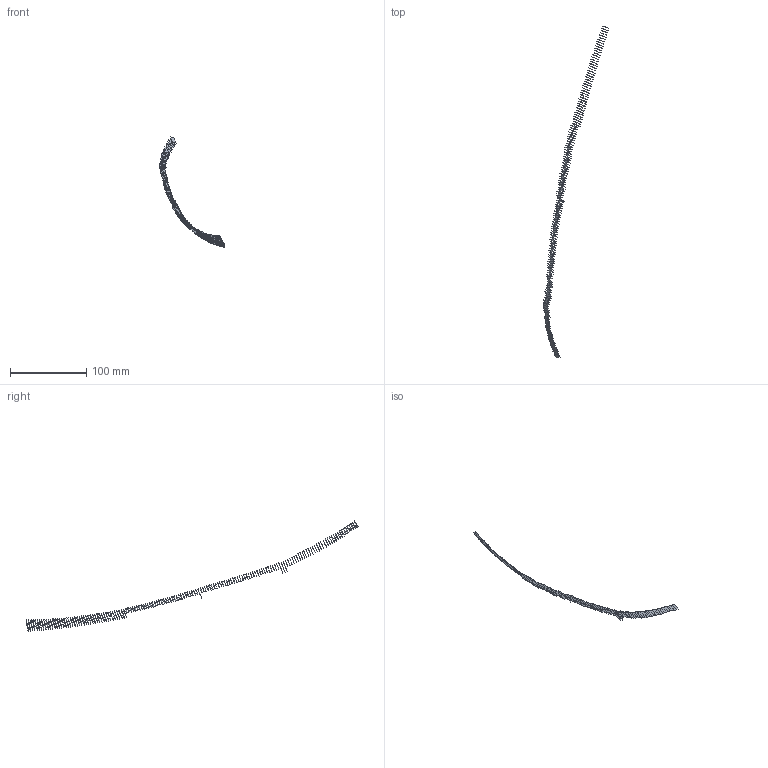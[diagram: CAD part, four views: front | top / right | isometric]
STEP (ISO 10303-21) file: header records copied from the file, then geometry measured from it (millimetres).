
FILE_DESCRIPTION(('FreeCAD Model'),'2;1');
FILE_NAME('Open CASCADE Shape Model','2022-05-22T07:50:26',('FreeCAD'),( 'FreeCAD'),'Open CASCADE STEP processor 7.5','FreeCAD','Unknown');
FILE_SCHEMA(('AUTOMOTIVE_DESIGN { 1 0 10303 214 1 1 1 1 }'));
Length unit declared in the file: millimetre
Products named in the file (154): Open CASCADE STEP translator 7.5 43; Open CASCADE STEP translator 7.5 43.1; Open CASCADE STEP translator 7.5 43.2; Open CASCADE STEP translator 7.5 43.3; Open CASCADE STEP translator 7.5 43.4; Open CASCADE STEP translator 7.5 43.5; Open CASCADE STEP translator 7.5 43.6; Open CASCADE STEP translator 7.5 43.7; Open CASCADE STEP translator 7.5 43.8; Open CASCADE STEP translator 7.5 43.9; Open CASCADE STEP translator 7.5 43.10; Open CASCADE STEP translator 7.5 43.11; Open CASCADE STEP translator 7.5 43.12; Open CASCADE STEP translator 7.5 43.13; Open CASCADE STEP translator 7.5 43.14; Open CASCADE STEP translator 7.5 43.15; Open CASCADE STEP translator 7.5 43.16; Open CASCADE STEP translator 7.5 43.17; Open CASCADE STEP translator 7.5 43.18; Open CASCADE STEP translator 7.5 43.19; Open CASCADE STEP translator 7.5 43.20; Open CASCADE STEP translator 7.5 43.21; Open CASCADE STEP translator 7.5 43.22; Open CASCADE STEP translator 7.5 43.23; Open CASCADE STEP translator 7.5 43.24; Open CASCADE STEP translator 7.5 43.25; Open CASCADE STEP translator 7.5 43.26; Open CASCADE STEP translator 7.5 43.27; Open CASCADE STEP translator 7.5 43.28; Open CASCADE STEP translator 7.5 43.29; Open CASCADE STEP translator 7.5 43.30; Open CASCADE STEP translator 7.5 43.31; Open CASCADE STEP translator 7.5 43.32; Open CASCADE STEP translator 7.5 43.33; Open CASCADE STEP translator 7.5 43.34; Open CASCADE STEP translator 7.5 43.35; Open CASCADE STEP translator 7.5 43.36; Open CASCADE STEP translator 7.5 43.37; Open CASCADE STEP translator 7.5 43.38; Open CASCADE STEP translator 7.5 43.39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
Assembly tree (153 placements, depth 2):
  Open CASCADE STEP translator 7.5 43
    Open CASCADE STEP translator 7.5 43.1
    Open CASCADE STEP translator 7.5 43.2
    Open CASCADE STEP translator 7.5 43.3
    Open CASCADE STEP translator 7.5 43.4
    Open CASCADE STEP translator 7.5 43.5
    Open CASCADE STEP translator 7.5 43.6
    Open CASCADE STEP translator 7.5 43.7
    Open CASCADE STEP translator 7.5 43.8
    Open CASCADE STEP translator 7.5 43.9
    Open CASCADE STEP translator 7.5 43.10
    Open CASCADE STEP translator 7.5 43.11
    Open CASCADE STEP translator 7.5 43.12
    Open CASCADE STEP translator 7.5 43.13
    Open CASCADE STEP translator 7.5 43.14
    Open CASCADE STEP translator 7.5 43.15
    Open CASCADE STEP translator 7.5 43.16
    Open CASCADE STEP translator 7.5 43.17
    Open CASCADE STEP translator 7.5 43.18
    Open CASCADE STEP translator 7.5 43.19
    Open CASCADE STEP translator 7.5 43.20
    Open CASCADE STEP translator 7.5 43.21
    Open CASCADE STEP translator 7.5 43.22
    Open CASCADE STEP translator 7.5 43.23
    Open CASCADE STEP translator 7.5 43.24
    Open CASCADE STEP translator 7.5 43.25
    Open CASCADE STEP translator 7.5 43.26
    Open CASCADE STEP translator 7.5 43.27
    Open CASCADE STEP translator 7.5 43.28
    Open CASCADE STEP translator 7.5 43.29
    Open CASCADE STEP translator 7.5 43.30
    Open CASCADE STEP translator 7.5 43.31
    Open CASCADE STEP translator 7.5 43.32
    Open CASCADE STEP translator 7.5 43.33
    Open CASCADE STEP translator 7.5 43.34
    Open CASCADE STEP translator 7.5 43.35
    Open CASCADE STEP translator 7.5 43.36
    Open CASCADE STEP translator 7.5 43.37
    Open CASCADE STEP translator 7.5 43.38
    Open CASCADE STEP translator 7.5 43.39
    Open CASCADE STEP translator 7.5 43.40
    Open CASCADE STEP translator 7.5 43.41
    Open CASCADE STEP translator 7.5 43.42
    Open CASCADE STEP translator 7.5 43.43
    Open CASCADE STEP translator 7.5 43.44
    Open CASCADE STEP translator 7.5 43.45
    Open CASCADE STEP translator 7.5 43.46
    Open CASCADE STEP translator 7.5 43.47
    Open CASCADE STEP translator 7.5 43.48
    Open CASCADE STEP translator 7.5 43.49
    Open CASCADE STEP translator 7.5 43.50
    Open CASCADE STEP translator 7.5 43.51
    Open CASCADE STEP translator 7.5 43.52
    Open CASCADE STEP translator 7.5 43.53
    Open CASCADE STEP translator 7.5 43.54
    Open CASCADE STEP translator 7.5 43.55
    Open CASCADE STEP translator 7.5 43.56
    Open CASCADE STEP translator 7.5 43.57
    Open CASCADE STEP translator 7.5 43.58
    Open CASCADE STEP translator 7.5 43.59
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Bounding box: 86.35 x 435.71 x 144.65 mm (x, y, z)
Surface area: 5329.6 mm2 (no closed solid volume)
Topology: 0 solids, 153 shells, 153 faces, 2402 edges, 2402 vertices
Faces by surface type: bspline 153
Entity records: 35526 total; most frequent: CARTESIAN_POINT 12776, B_SPLINE_CURVE_WITH_KNOTS 4804, ORIENTED_EDGE 2402, EDGE_CURVE 2402, VERTEX_POINT 2402, SURFACE_CURVE 2402, PCURVE 2402, DEFINITIONAL_REPRESENTATION 2402
